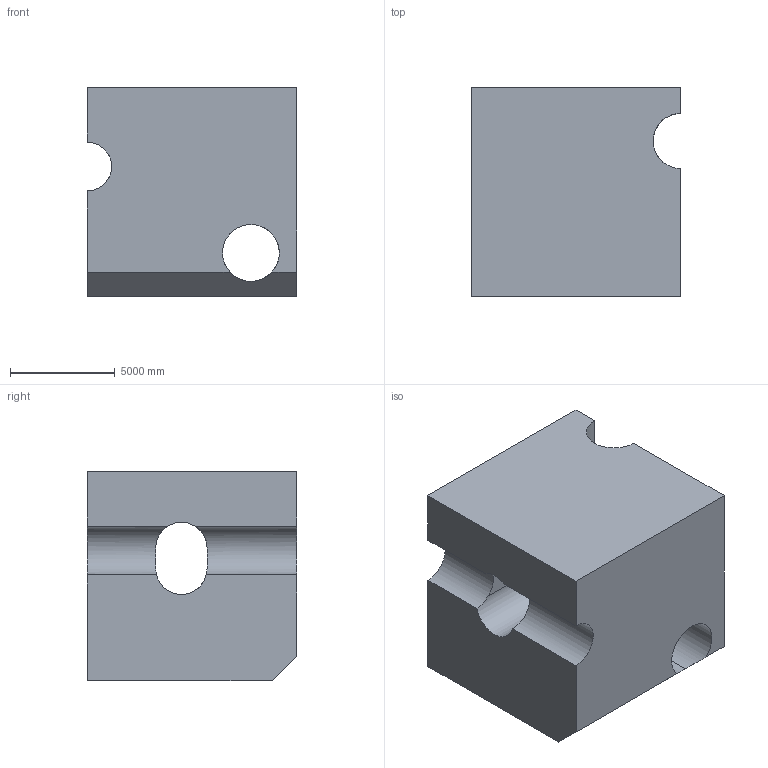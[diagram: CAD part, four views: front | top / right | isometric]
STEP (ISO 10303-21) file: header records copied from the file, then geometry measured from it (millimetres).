
FILE_DESCRIPTION (( 'STEP AP203' ), '1' );
FILE_NAME ('110.STEP', '2022-08-31T11:38:11', ( 'user' ), ( '' ), 'SwSTEP 2.0', 'SolidWorks 2021', '' );
FILE_SCHEMA (( 'CONFIG_CONTROL_DESIGN' ));
Length unit declared in the file: centimetre
Products named in the file (1): 110
Bounding box: 10000 x 10000 x 10000 mm (x, y, z)
Volume: 819314938087.1 mm3; surface area: 739665158.6 mm2
Topology: 1 solids, 1 shells, 21 faces, 71 edges, 48 vertices
Faces by surface type: plane 12, cylinder 9
Entity records: 1703 total; most frequent: CARTESIAN_POINT 1001, ORIENTED_EDGE 142, DIRECTION 122, EDGE_CURVE 71, VERTEX_POINT 48, AXIS2_PLACEMENT_3D 41, LINE 40, VECTOR 40
